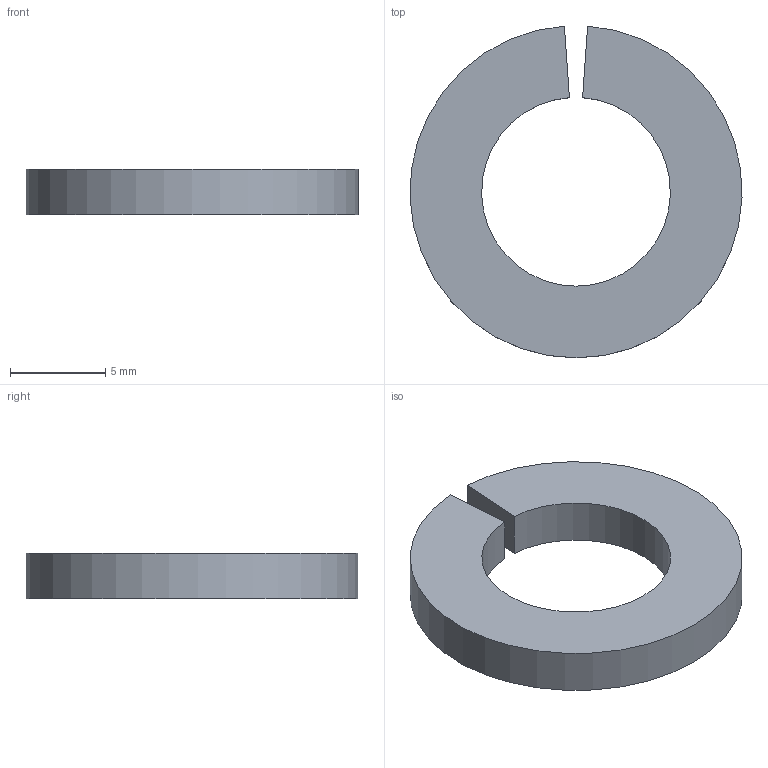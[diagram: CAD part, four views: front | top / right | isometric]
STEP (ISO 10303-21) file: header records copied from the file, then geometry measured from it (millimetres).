
FILE_DESCRIPTION(/* description */ (''),/* implementation_level */ '2;1');
FILE_NAME(/* name */ 'E:/hidden/Engineering Projects/Leslie Controls SuperTyfon/CAD/Components/10392 Lock Washer.step',/* time_stamp */ '2022-08-18T19:34:20+10:00',/* author */ (''),/* organization */ (''),/* preprocessor_version */ 'ST-DEVELOPER v19',/* originating_system */ 'Autodesk Translation Framework v11.7.0.108',/* authorisation */ '');
FILE_SCHEMA (('AUTOMOTIVE_DESIGN { 1 0 10303 214 3 1 1 }'));
Length unit declared in the file: inch
Products named in the file (1): 10392 Lock Washer
Bounding box: 17.45 x 17.44 x 2.38 mm (x, y, z)
Volume: 377.6 mm3; surface area: 535.4 mm2
Topology: 1 solids, 1 shells, 6 faces, 12 edges, 8 vertices
Faces by surface type: plane 4, cylinder 2
Entity records: 195 total; most frequent: DIRECTION 30, CARTESIAN_POINT 27, ORIENTED_EDGE 24, EDGE_CURVE 12, AXIS2_PLACEMENT_3D 11, LINE 8, VECTOR 8, VERTEX_POINT 8
